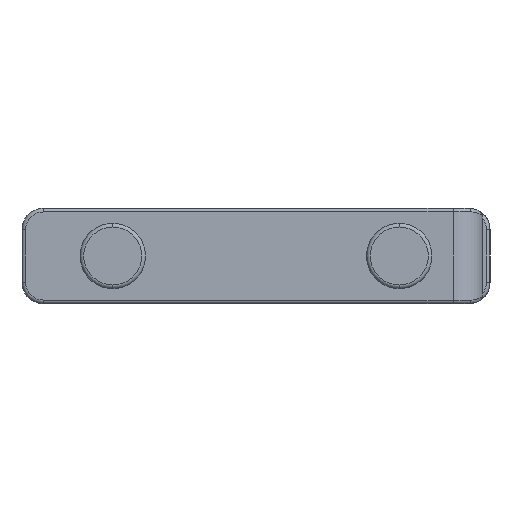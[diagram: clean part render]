
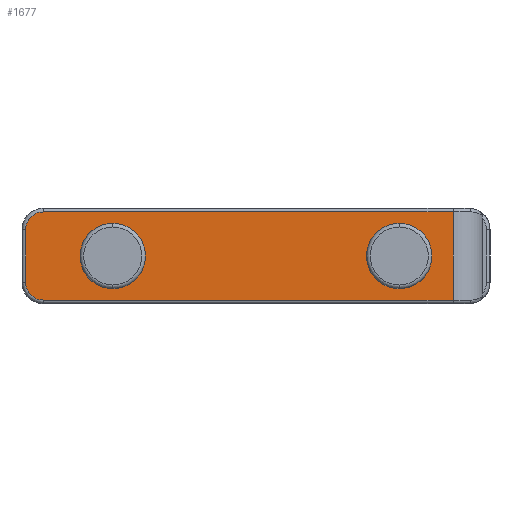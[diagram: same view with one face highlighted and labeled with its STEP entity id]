
A CAD part, left-side view. The second image highlights one B-rep face of the part: STEP entity #1677.
In plain terms, the highlighted planar face has unit normal (-1, 0, 0).
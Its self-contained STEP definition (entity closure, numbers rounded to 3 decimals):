
#332 = CARTESIAN_POINT ( 'NONE',  ( -158.2, 19.5, 4.45 ) ) ;
#360 = CARTESIAN_POINT ( 'NONE',  ( -158.2, 19.5, -4.45 ) ) ;
#724 = EDGE_CURVE ( 'NONE', #3063, #3056, #1197, .T. ) ;
#883 = VERTEX_POINT ( 'NONE', #1012 ) ;
#884 = VERTEX_POINT ( 'NONE', #1011 ) ;
#887 = EDGE_CURVE ( 'NONE', #883, #884, #1037, .T. ) ;
#1011 = CARTESIAN_POINT ( 'NONE',  ( -158.2, -19.5, -4.45 ) ) ;
#1012 = CARTESIAN_POINT ( 'NONE',  ( -158.2, -19.5, 4.45 ) ) ;
#1021 = CARTESIAN_POINT ( 'NONE',  ( -158.2, -19.5, 0. ) ) ;
#1030 = AXIS2_PLACEMENT_3D ( 'NONE', #1021, #1050, #1043 ) ;
#1037 = CIRCLE ( 'NONE', #1030, 4.45 ) ;
#1043 = DIRECTION ( 'NONE',  ( 0., 0., -1. ) ) ;
#1050 = DIRECTION ( 'NONE',  ( -1., 0., 0. ) ) ;
#1182 = DIRECTION ( 'NONE',  ( 0., 0., -1. ) ) ;
#1183 = DIRECTION ( 'NONE',  ( -1., 0., 0. ) ) ;
#1184 = CARTESIAN_POINT ( 'NONE',  ( -158.2, 19.5, 0. ) ) ;
#1196 = AXIS2_PLACEMENT_3D ( 'NONE', #1184, #1183, #1182 ) ;
#1197 = CIRCLE ( 'NONE', #1196, 4.45 ) ;
#1243 = EDGE_CURVE ( 'NONE', #1250, #1246, #1931, .T. ) ;
#1246 = VERTEX_POINT ( 'NONE', #1927 ) ;
#1250 = VERTEX_POINT ( 'NONE', #1926 ) ;
#1255 = ORIENTED_EDGE ( 'NONE', *, *, #1600, .T. ) ;
#1565 = EDGE_CURVE ( 'NONE', #1584, #1572, #1957, .T. ) ;
#1568 = ORIENTED_EDGE ( 'NONE', *, *, #1603, .T. ) ;
#1572 = VERTEX_POINT ( 'NONE', #2071 ) ;
#1582 = ORIENTED_EDGE ( 'NONE', *, *, #1565, .T. ) ;
#1584 = VERTEX_POINT ( 'NONE', #2054 ) ;
#1600 = EDGE_CURVE ( 'NONE', #1250, #1584, #2090, .T. ) ;
#1603 = EDGE_CURVE ( 'NONE', #1572, #1628, #2086, .T. ) ;
#1606 = ORIENTED_EDGE ( 'NONE', *, *, #1616, .F. ) ;
#1610 = EDGE_LOOP ( 'NONE', ( #1606, #1615 ) ) ;
#1612 = EDGE_CURVE ( 'NONE', #1625, #1246, #2118, .T. ) ;
#1615 = ORIENTED_EDGE ( 'NONE', *, *, #887, .F. ) ;
#1616 = EDGE_CURVE ( 'NONE', #884, #883, #2283, .T. ) ;
#1623 = ORIENTED_EDGE ( 'NONE', *, *, #1612, .T. ) ;
#1625 = VERTEX_POINT ( 'NONE', #2262 ) ;
#1627 = EDGE_CURVE ( 'NONE', #1628, #1625, #2261, .T. ) ;
#1628 = VERTEX_POINT ( 'NONE', #2256 ) ;
#1633 = ORIENTED_EDGE ( 'NONE', *, *, #1627, .T. ) ;
#1659 = EDGE_LOOP ( 'NONE', ( #1662, #1711 ) ) ;
#1662 = ORIENTED_EDGE ( 'NONE', *, *, #1689, .F. ) ;
#1677 = ADVANCED_FACE ( 'NONE', ( #2410, #2409, #2408 ), #2407, .F. ) ;
#1689 = EDGE_CURVE ( 'NONE', #3056, #3063, #2378, .T. ) ;
#1711 = ORIENTED_EDGE ( 'NONE', *, *, #724, .F. ) ;
#1713 = EDGE_LOOP ( 'NONE', ( #1718, #1255, #1582, #1568, #1633, #1623 ) ) ;
#1718 = ORIENTED_EDGE ( 'NONE', *, *, #1243, .F. ) ;
#1926 = CARTESIAN_POINT ( 'NONE',  ( -158.2, -26.82, 6. ) ) ;
#1927 = CARTESIAN_POINT ( 'NONE',  ( -158.2, -26.82, -6. ) ) ;
#1928 = DIRECTION ( 'NONE',  ( 0., 0., -1. ) ) ;
#1929 = VECTOR ( 'NONE', #1928, 1000. ) ;
#1930 = CARTESIAN_POINT ( 'NONE',  ( -158.2, -26.82, -7.5 ) ) ;
#1931 = LINE ( 'NONE', #1930, #1929 ) ;
#1953 = DIRECTION ( 'NONE',  ( 0., 0., -1. ) ) ;
#1954 = DIRECTION ( 'NONE',  ( -1., 0., 0. ) ) ;
#1955 = CARTESIAN_POINT ( 'NONE',  ( -158.2, 28.95, 3.6 ) ) ;
#1956 = AXIS2_PLACEMENT_3D ( 'NONE', #1955, #1954, #1953 ) ;
#1957 = CIRCLE ( 'NONE', #1956, 2.4 ) ;
#2054 = CARTESIAN_POINT ( 'NONE',  ( -158.2, 28.95, 6. ) ) ;
#2071 = CARTESIAN_POINT ( 'NONE',  ( -158.2, 31.35, 3.6 ) ) ;
#2083 = DIRECTION ( 'NONE',  ( 0., 0., -1. ) ) ;
#2084 = VECTOR ( 'NONE', #2083, 1000. ) ;
#2085 = CARTESIAN_POINT ( 'NONE',  ( -158.2, 31.35, -3.6 ) ) ;
#2086 = LINE ( 'NONE', #2085, #2084 ) ;
#2087 = DIRECTION ( 'NONE',  ( 0., 1., 0. ) ) ;
#2088 = VECTOR ( 'NONE', #2087, 1000. ) ;
#2089 = CARTESIAN_POINT ( 'NONE',  ( -158.2, 28.95, 6. ) ) ;
#2090 = LINE ( 'NONE', #2089, #2088 ) ;
#2113 = CARTESIAN_POINT ( 'NONE',  ( -158.2, -19.5, 0. ) ) ;
#2115 = DIRECTION ( 'NONE',  ( 0., -1., 0. ) ) ;
#2116 = VECTOR ( 'NONE', #2115, 1000. ) ;
#2117 = CARTESIAN_POINT ( 'NONE',  ( -158.2, -26.82, -6. ) ) ;
#2118 = LINE ( 'NONE', #2117, #2116 ) ;
#2256 = CARTESIAN_POINT ( 'NONE',  ( -158.2, 31.35, -3.6 ) ) ;
#2257 = DIRECTION ( 'NONE',  ( 0., 0., -1. ) ) ;
#2258 = DIRECTION ( 'NONE',  ( -1., 0., 0. ) ) ;
#2259 = CARTESIAN_POINT ( 'NONE',  ( -158.2, 28.95, -3.6 ) ) ;
#2260 = AXIS2_PLACEMENT_3D ( 'NONE', #2259, #2258, #2257 ) ;
#2261 = CIRCLE ( 'NONE', #2260, 2.4 ) ;
#2262 = CARTESIAN_POINT ( 'NONE',  ( -158.2, 28.95, -6. ) ) ;
#2280 = DIRECTION ( 'NONE',  ( 0., 0., -1. ) ) ;
#2281 = DIRECTION ( 'NONE',  ( -1., 0., 0. ) ) ;
#2282 = AXIS2_PLACEMENT_3D ( 'NONE', #2113, #2281, #2280 ) ;
#2283 = CIRCLE ( 'NONE', #2282, 4.45 ) ;
#2378 = CIRCLE ( 'NONE', #2394, 4.45 ) ;
#2391 = DIRECTION ( 'NONE',  ( 0., 0., -1. ) ) ;
#2392 = DIRECTION ( 'NONE',  ( -1., 0., 0. ) ) ;
#2393 = CARTESIAN_POINT ( 'NONE',  ( -158.2, 19.5, 0. ) ) ;
#2394 = AXIS2_PLACEMENT_3D ( 'NONE', #2393, #2392, #2391 ) ;
#2402 = DIRECTION ( 'NONE',  ( 0., 0., -1. ) ) ;
#2403 = DIRECTION ( 'NONE',  ( 1., 0., 0. ) ) ;
#2404 = CARTESIAN_POINT ( 'NONE',  ( -158.2, -27.9, -2.9 ) ) ;
#2406 = AXIS2_PLACEMENT_3D ( 'NONE', #2404, #2403, #2402 ) ;
#2407 = PLANE ( 'NONE',  #2406 ) ;
#2408 = FACE_BOUND ( 'NONE', #1610, .T. ) ;
#2409 = FACE_OUTER_BOUND ( 'NONE', #1713, .T. ) ;
#2410 = FACE_BOUND ( 'NONE', #1659, .T. ) ;
#3056 = VERTEX_POINT ( 'NONE', #360 ) ;
#3063 = VERTEX_POINT ( 'NONE', #332 ) ;
